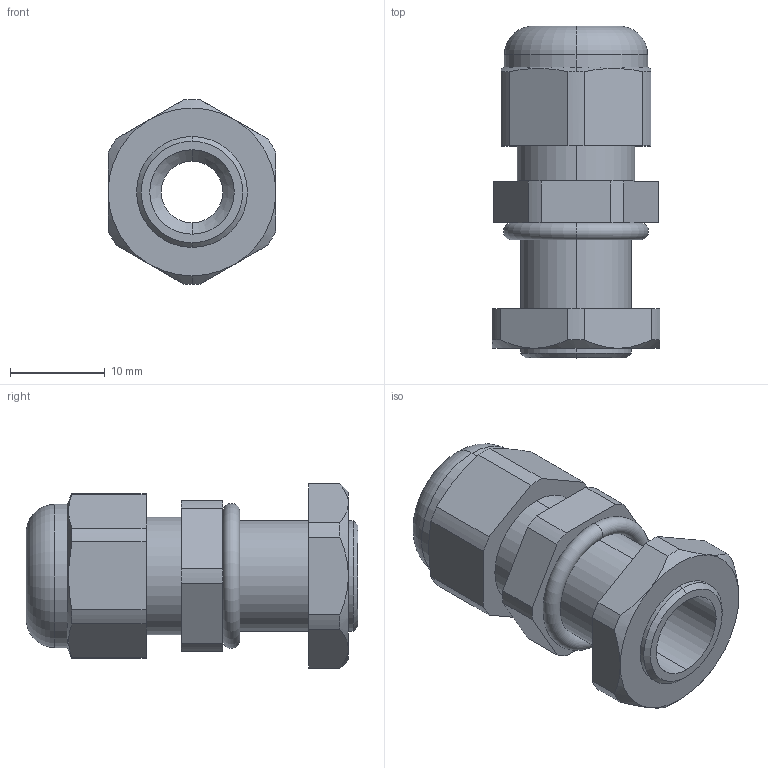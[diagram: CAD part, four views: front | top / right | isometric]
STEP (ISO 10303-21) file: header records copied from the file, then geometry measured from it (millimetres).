
FILE_DESCRIPTION (( 'STEP AP203' ), '1' );
FILE_NAME ('CH-M12L.STEP', '2018-02-07T14:48:08', ( '' ), ( '' ), 'SwSTEP 2.0', 'SolidWorks 2012', '' );
FILE_SCHEMA (( 'CONFIG_CONTROL_DESIGN' ));
Length unit declared in the file: millimetre
Products named in the file (1): CH-M12L
Bounding box: 17.7 x 35 x 19.5 mm (x, y, z)
Volume: 4336.4 mm3; surface area: 3405.5 mm2
Topology: 1 solids, 1 shells, 78 faces, 189 edges, 118 vertices
Faces by surface type: cylinder 34, plane 25, cone 15, torus 4
Entity records: 2438 total; most frequent: CARTESIAN_POINT 492, DIRECTION 415, ORIENTED_EDGE 378, EDGE_CURVE 189, AXIS2_PLACEMENT_3D 165, VERTEX_POINT 118, CIRCLE 86, EDGE_LOOP 85
